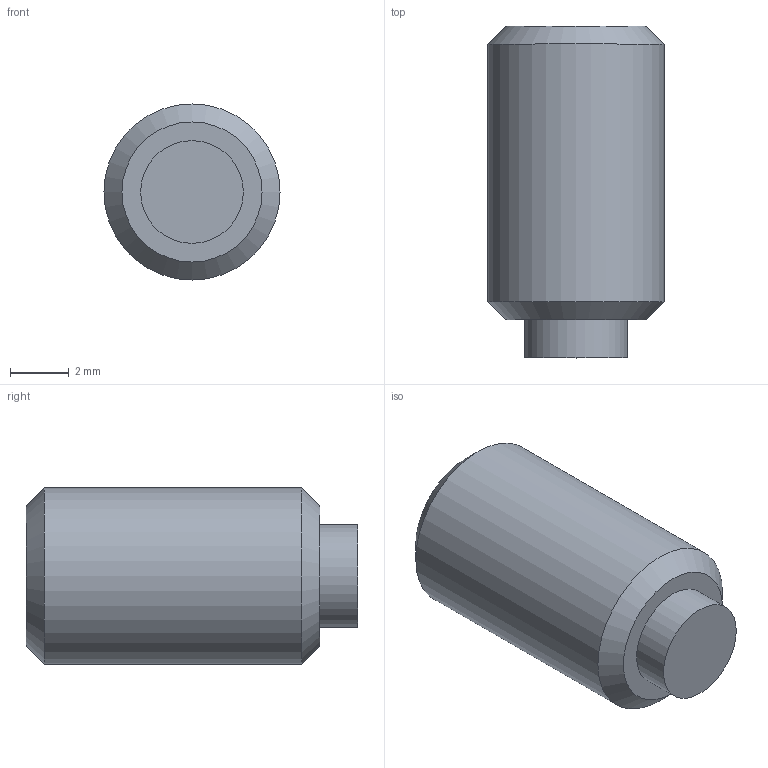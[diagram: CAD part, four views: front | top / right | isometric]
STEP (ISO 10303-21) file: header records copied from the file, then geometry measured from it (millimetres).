
FILE_DESCRIPTION( ( 'STEP AP203' ), '1' );
FILE_NAME( 'C:/Temp/Ganter_Step_05_03_2020/data/3_2/gn913_3/Grub screw GN 913.3-M6-10-KU.stp', '2020-03-13T05:35:35', ( 'License CC BY-ND 4.0' ), ( 'CADENAS' ), ' ', 'PARTsolutions', ' ' );
FILE_SCHEMA( ( 'CONFIG_CONTROL_DESIGN' ) );
Length unit declared in the file: millimetre
Products named in the file (1): _Grub screw GN 913.3-M6-10-KU
Bounding box: 6 x 11.3 x 6 mm (x, y, z)
Volume: 261.4 mm3; surface area: 281.2 mm2
Topology: 1 solids, 1 shells, 14 faces, 28 edges, 18 vertices
Faces by surface type: plane 10, cylinder 2, cone 2
Full cylindrical faces by diameter (mm): 3.5 x1, 6 x1
Entity records: 386 total; most frequent: DIRECTION 60, CARTESIAN_POINT 57, ORIENTED_EDGE 48, EDGE_CURVE 24, AXIS2_PLACEMENT_3D 21, EDGE_LOOP 20, VERTEX_POINT 18, LINE 18
